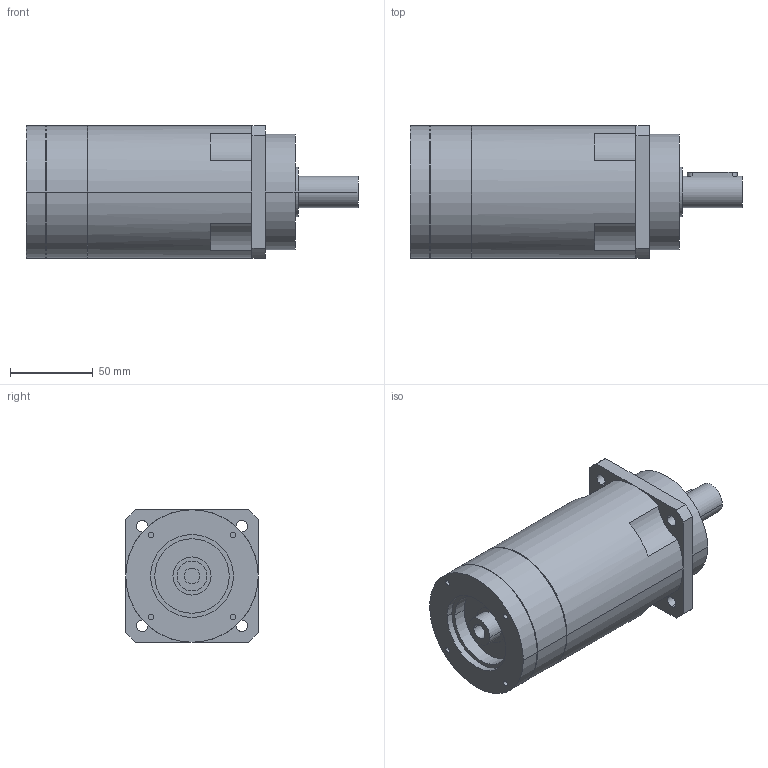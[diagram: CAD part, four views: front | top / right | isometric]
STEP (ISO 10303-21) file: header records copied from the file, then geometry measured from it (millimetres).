
FILE_DESCRIPTION(('CoCreate Modeling STEP Export'),'2;1');
FILE_NAME('GPR100_ig-48-64-80-100-120-144-180-216_19_B5_9.52_P22.stp','2014-08-26T11:57:56',(''),(''),'CoCreate Modeling STEP processor for AP214 (Solid Model)','CoCreate Modeling 16.00C 25-Feb-2009 (C) Parametric Technology GmbH','');
FILE_SCHEMA(('AUTOMOTIVE_DESIGN { 1 0 10303 214 1 1 1 1 }'));
Length unit declared in the file: millimetre
Products named in the file (2): GPR100_ig-48-64-80-100-120-144-180-216_19_B5_9.52_P22
Assembly tree (1 placements, depth 2):
  GPR100_ig-48-64-80-100-120-144-180-216_19_B5_9.52_P22
    GPR100_ig-48-64-80-100-120-144-180-216_19_B5_9.52_P22
Bounding box: 200.4 x 80 x 80 mm (x, y, z)
Volume: 786992.6 mm3; surface area: 61117.6 mm2
Topology: 1 solids, 1 shells, 87 faces, 220 edges, 148 vertices
Faces by surface type: cylinder 50, plane 31, cone 6
Entity records: 2354 total; most frequent: ORIENTED_EDGE 436, CARTESIAN_POINT 426, DIRECTION 346, EDGE_CURVE 218, VERTEX_POINT 148, AXIS2_PLACEMENT_3D 132, EDGE_LOOP 110, FACE_OUTER_BOUND 87
